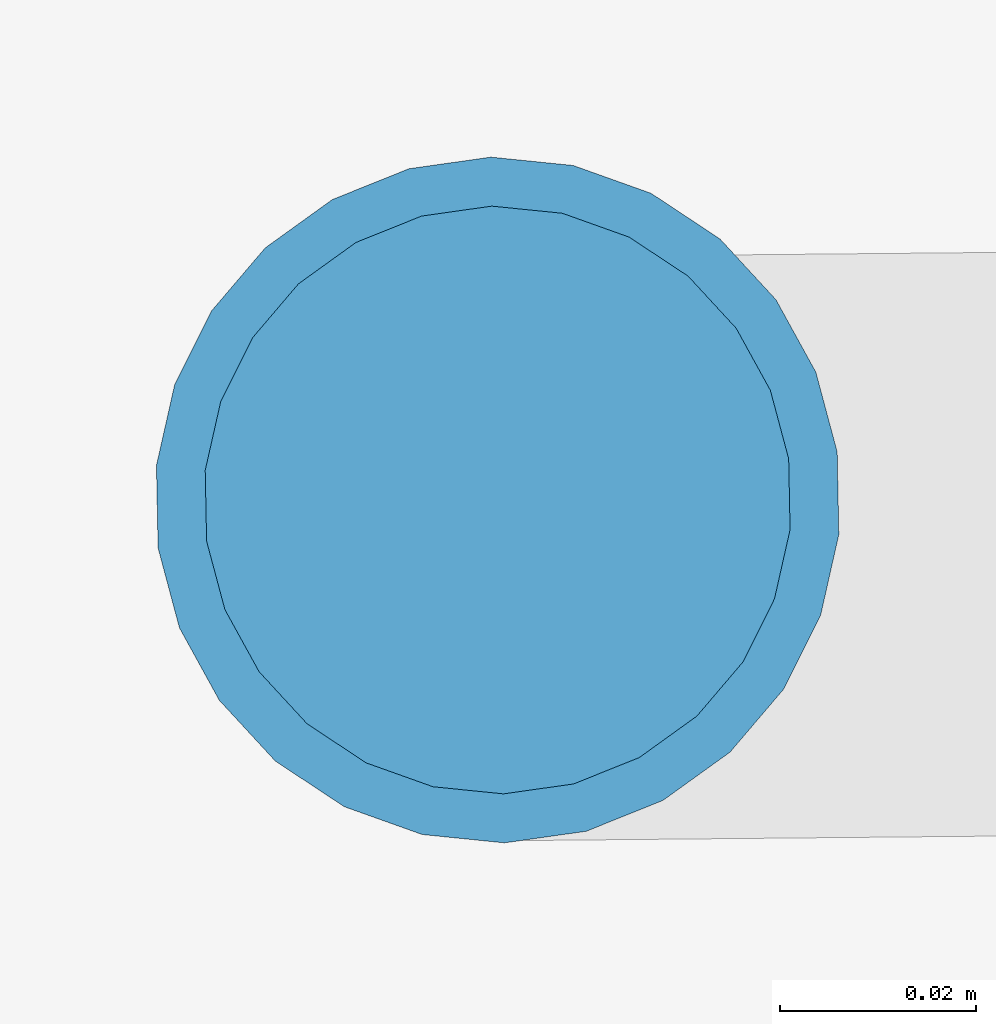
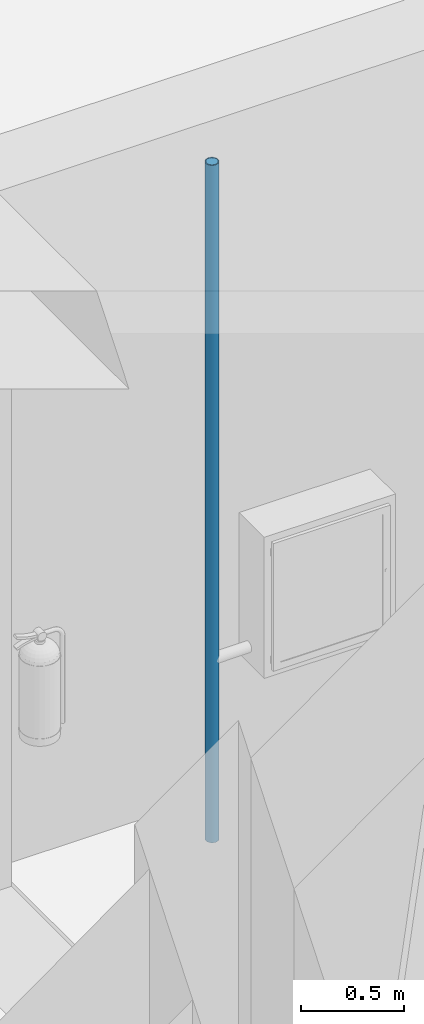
# One storey, part 41 of 90: 2 building element parts, 1 element without a shape of its own.
"""IFC2X3 building model written with IfcOpenShell, lengths in metres."""

from ifc_helpers import new_model, entity, si_unit, converted_unit, derived_unit, money_unit, direction, frame, origin_with_axes, origin_2d_with_axis, place, context, subcontext, project, spatial, circle, hollow_circle, extrude, material, type_object, element, aggregate, save


model = new_model("IFC2X3")

# Units and contexts
model_context = context("Model", 3, precision=1e-05, world=origin_with_axes(), true_north=direction((0.0, 1.0)))
body_context = subcontext(model_context, "Body", "Model", "MODEL_VIEW")
ifc_project = project(units=[si_unit("LENGTHUNIT", "METRE"), si_unit("AREAUNIT", "SQUARE_METRE"), si_unit("VOLUMEUNIT", "CUBIC_METRE"), converted_unit("PLANEANGLEUNIT", "DEGREE", entity("IfcPlaneAngleMeasure", 0.0174532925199), si_unit("PLANEANGLEUNIT", "RADIAN"), dimensions=[0, 0, 0, 0, 0, 0, 0]), money_unit("EUR"), converted_unit("TIMEUNIT", "Year", entity("IfcTimeMeasure", 31556926.0), si_unit("TIMEUNIT", "SECOND"), dimensions=[0, 0, 1, 0, 0, 0, 0]), si_unit("MASSUNIT", "GRAM", prefix="KILO"), si_unit("THERMODYNAMICTEMPERATUREUNIT", "DEGREE_CELSIUS"), si_unit("LUMINOUSINTENSITYUNIT", "LUMEN"), si_unit("ENERGYUNIT", "JOULE", prefix="MEGA"), derived_unit("THERMALCONDUCTANCEUNIT", [(si_unit("POWERUNIT", "WATT"), 1), (si_unit("LENGTHUNIT", "METRE"), -1), (si_unit("THERMODYNAMICTEMPERATUREUNIT", "KELVIN"), -1)]), derived_unit("SPECIFICHEATCAPACITYUNIT", [(si_unit("ENERGYUNIT", "JOULE"), 1), (si_unit("MASSUNIT", "GRAM", prefix="KILO"), -1), (si_unit("THERMODYNAMICTEMPERATUREUNIT", "KELVIN"), -1)]), derived_unit("MASSDENSITYUNIT", [(si_unit("MASSUNIT", "GRAM", prefix="KILO"), 1), (si_unit("VOLUMEUNIT", "CUBIC_METRE"), -1)])], contexts=[model_context])

# Site, building, storey
site_placement = place(None, origin_with_axes())
site = spatial("IfcSite", under=ifc_project, at=site_placement, Name="Gelände", CompositionType="ELEMENT")
building_placement = place(site_placement, origin_with_axes())
building = spatial("IfcBuilding", under=site, at=building_placement, Name="Gebäude", CompositionType="ELEMENT")
storey_placement = place(building_placement, frame((0.0, 0.0, 3.7), z_axis=(0.0, 0.0, 1.0), x_axis=(1.0, 0.0, 0.0)))
storey = spatial("IfcBuildingStorey", under=building, at=storey_placement, Name="1.OBERGESCHOSS", CompositionType="ELEMENT", Elevation=3.7)

# Column, building element parts
column_type = type_object("IfcColumnType", Name="56_Metall, Stahl verzinkt D70", PredefinedType="COLUMN")
column_placement = place(storey_placement, frame((4.72250942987, 19.1906859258, -0.081788), z_axis=(0.0, 0.0, 1.0), x_axis=(1.0, 0.0, 0.0)))
column = element("IfcColumn", 1, at=column_placement, inside=storey, type_object=column_type, Name="Stütze-008", ObjectType="COLUMN")
ifc_material = material(Name="56_Metall, Stahl verzinkt")
building_element_part_1_placement = place(column_placement, origin_with_axes())
building_element_part_1 = element("IfcBuildingElementPart", 2, at=building_element_part_1_placement, material=ifc_material, Name="56_Metall, Stahl verzinkt", context=body_context, shape_type="SweptSolid", body=[
    extrude(hollow_circle(Radius=0.035, WallThickness=0.005, at=origin_2d_with_axis()), frame((0.0, 0.0, 0.0), z_axis=(0.0, 0.0, 1.0), x_axis=(0.0198104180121, -0.999803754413, 0.0)), (0.0, 0.0, 1.0), 4.011788),
])
building_element_part_2_placement = place(column_placement, origin_with_axes())
building_element_part_2 = element("IfcBuildingElementPart", 3, at=building_element_part_2_placement, material=ifc_material, Name="56_Metall, Stahl verzinkt", context=body_context, shape_type="SweptSolid", body=[
    extrude(circle(Radius=0.03, at=origin_2d_with_axis()), frame((0.0, 0.0, 0.0), z_axis=(0.0, 0.0, 1.0), x_axis=(0.0198104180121, -0.999803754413, 0.0)), (0.0, 0.0, 1.0), 4.011788),
])
aggregate(column, [building_element_part_1, building_element_part_2])

save(model, "model.ifc")
